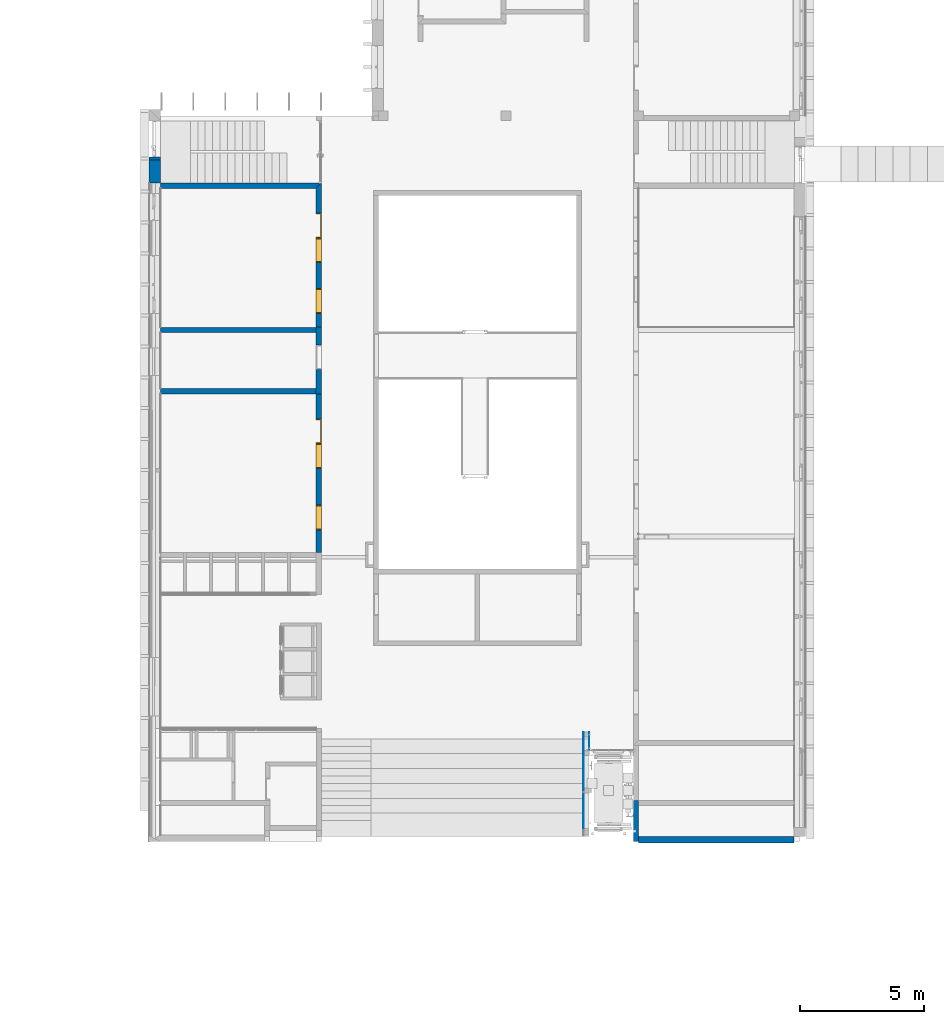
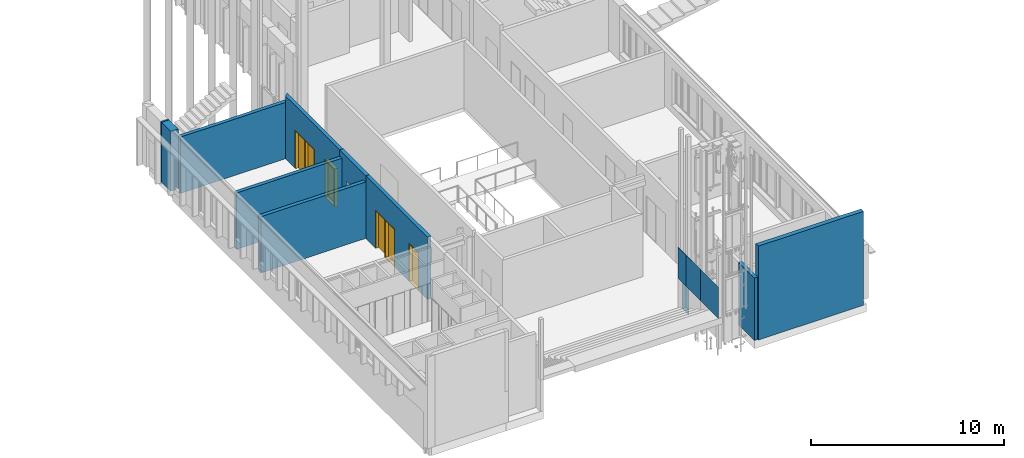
# One storey, part 12 of 89: 14 walls, 4 windows, 2 doors, 7 openings.
"""IFC2X3 building model written with IfcOpenShell, lengths in millimetres."""

from ifc_helpers import new_model, entity, si_unit, converted_unit, derived_unit, money_unit, direction, frame, origin_with_axes, origin_2d_with_axis, place, context, subcontext, project, spatial, polyline, rectangle, outline, extrude, open_shell, faceted_brep, surface_model, source, transform, mapped, material, layer, layer_set, layer_usage, type_object, element, fill, save


model = new_model("IFC2X3")

# Units and contexts
model_context = context("Model", 3, precision=0.01, world=origin_with_axes(), true_north=direction((0.0, 1.0)))
body_context = subcontext(model_context, "Body", "Model", "MODEL_VIEW")
ifc_project = project(units=[si_unit("LENGTHUNIT", "METRE", prefix="MILLI"), si_unit("AREAUNIT", "SQUARE_METRE"), si_unit("VOLUMEUNIT", "CUBIC_METRE"), converted_unit("PLANEANGLEUNIT", "DEGREE", entity("IfcPlaneAngleMeasure", 0.0174532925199), si_unit("PLANEANGLEUNIT", "RADIAN"), dimensions=[0, 0, 0, 0, 0, 0, 0]), si_unit("SOLIDANGLEUNIT", "STERADIAN"), money_unit("EUR"), converted_unit("TIMEUNIT", "Year", entity("IfcTimeMeasure", 31556926.0), si_unit("TIMEUNIT", "SECOND"), dimensions=[0, 0, 1, 0, 0, 0, 0]), si_unit("MASSUNIT", "GRAM", prefix="KILO"), si_unit("THERMODYNAMICTEMPERATUREUNIT", "DEGREE_CELSIUS"), si_unit("LUMINOUSINTENSITYUNIT", "LUMEN"), si_unit("ENERGYUNIT", "JOULE", prefix="MEGA"), derived_unit("THERMALCONDUCTANCEUNIT", [(si_unit("POWERUNIT", "WATT"), 1), (si_unit("LENGTHUNIT", "METRE"), -1), (si_unit("THERMODYNAMICTEMPERATUREUNIT", "KELVIN"), -1)]), derived_unit("SPECIFICHEATCAPACITYUNIT", [(si_unit("ENERGYUNIT", "JOULE"), 1), (si_unit("MASSUNIT", "GRAM", prefix="KILO"), -1), (si_unit("THERMODYNAMICTEMPERATUREUNIT", "KELVIN"), -1)]), derived_unit("MASSDENSITYUNIT", [(si_unit("MASSUNIT", "GRAM", prefix="KILO"), 1), (si_unit("VOLUMEUNIT", "CUBIC_METRE"), -1)])], contexts=[model_context])

# Site, building, storey
site_placement = place(None, origin_with_axes())
site = spatial("IfcSite", under=ifc_project, at=site_placement, Name="Puškini 31, Narva", CompositionType="ELEMENT")
building_placement = place(site_placement, origin_with_axes())
building = spatial("IfcBuilding", under=site, at=building_placement, Name="Narva Riigigümnaasium", CompositionType="ELEMENT")
storey_placement = place(building_placement, frame((0.0, 0.0, -3300.0), z_axis=(0.0, 0.0, 1.0), x_axis=(1.0, 0.0, 0.0)))
storey = spatial("IfcBuildingStorey", under=building, at=storey_placement, Name="1.korrus -3.3", CompositionType="ELEMENT", Elevation=-3300.0)

# Walls
ifc_material_1 = material(Name="Betoon element")
ifc_layer_1 = layer(ifc_material_1, 200.0, ventilated="UNKNOWN")
ifc_layer_set_1 = layer_set([ifc_layer_1], Name="G-SS-01")
ifc_layer_usage_1 = layer_usage(ifc_layer_set_1, "AXIS2", "POSITIVE", 0.0)
wall_type_1 = type_object("IfcWallType", Name="G-SS-01 200", PredefinedType="NOTDEFINED")
wall_1_placement = place(storey_placement, frame((47499.9999928, 196350.0, 0.0), z_axis=(0.0, 0.0, 1.0), x_axis=(0.0, -1.0, 0.0)))
element("IfcWallStandardCase", 1, at=wall_1_placement, inside=storey, type_object=wall_type_1, material=ifc_layer_usage_1, Name="Sisesein", context=body_context, shape_type="SweptSolid", body=[
    extrude(outline(polyline([(0.0, 0.0), (1650.00000013, 0.0), (1650.00000013, 200.0), (0.0, 200.0), (0.0, 0.0)])), origin_with_axes(), (0.0, 0.0, 1.0), 3960.0),
])
ifc_material_2 = material(Name="fassaadiplaat")
ifc_layer_2 = layer(ifc_material_2, 8.0, ventilated="UNKNOWN")
ifc_material_3 = material(Name="Salto-roovitus")
ifc_layer_3 = layer(ifc_material_3, 50.0, ventilated="UNKNOWN")
ifc_material_4 = material(Name="Salto-PIR soojustus")
ifc_layer_4 = layer(ifc_material_4, 50.0, ventilated="UNKNOWN")
ifc_layer_5 = layer(ifc_material_4, 150.0, ventilated="UNKNOWN")
ifc_layer_set_2 = layer_set([ifc_layer_2, ifc_layer_3, ifc_layer_4, ifc_layer_5, ifc_layer_1], Name="G-VS-01-01")
ifc_layer_usage_2 = layer_usage(ifc_layer_set_2, "AXIS2", "NEGATIVE", 458.0)
wall_type_2 = type_object("IfcWallType", Name="G-VS-01-01 458", PredefinedType="NOTDEFINED")
wall_2_placement = place(storey_placement, frame((28400.0401775, 221279.999999, 169.490609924), z_axis=(0.0, 0.0, 1.0), x_axis=(0.0, 1.0, 0.0)))
element("IfcWallStandardCase", 2, at=wall_2_placement, inside=storey, type_object=wall_type_2, material=ifc_layer_usage_2, Name="Välissein", context=body_context, shape_type="SweptSolid", body=[
    extrude(outline(polyline([(0.0, 0.0), (938.741711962, 0.0), (938.741711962, 458.0), (0.0, 458.0), (0.0, 0.0)])), origin_with_axes(), (0.0, 0.0, 1.0), 3790.50939008),
])
wall_3_placement = place(storey_placement, frame((28400.0401775, 222218.741711, 149.999812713), z_axis=(0.0, 0.0, 1.0), x_axis=(0.0, 1.0, 0.0)))
element("IfcWallStandardCase", 3, at=wall_3_placement, inside=storey, type_object=wall_type_2, material=ifc_layer_usage_2, Name="Välissein", context=body_context, shape_type="SweptSolid", body=[
    extrude(outline(polyline([(0.0, 0.0), (110.01372737, 0.0), (110.01372737, 458.0), (0.0, 458.0), (0.0, 0.0)])), origin_with_axes(), (0.0, 0.0, 1.0), 3810.00018729),
])
ifc_material_5 = material(Name="Klaas")
ifc_layer_6 = layer(ifc_material_5, 12.0, ventilated="UNKNOWN")
ifc_layer_set_3 = layer_set([ifc_layer_6], Name="Klaas 12")
ifc_layer_usage_3 = layer_usage(ifc_layer_set_3, "AXIS2", "POSITIVE", -12.0)
wall_type_3 = type_object("IfcWallType", Name="Klaas 12", PredefinedType="NOTDEFINED")
wall_4_placement = place(storey_placement, frame((45724.0, 199106.971327, 0.0), z_axis=(0.0, 0.0, 1.0), x_axis=(0.0, -1.0, 0.0)))
element("IfcWallStandardCase", 4, at=wall_4_placement, inside=storey, type_object=wall_type_3, material=ifc_layer_usage_3, Name="Sisesein", context=body_context, shape_type="SweptSolid", body=[
    extrude(outline(polyline([(0.0, -12.0), (718.0, -12.0), (718.0, 0.0), (0.0, 0.0), (0.0, -12.0)])), origin_with_axes(), (0.0, 0.0, 1.0), 2949.0),
])
wall_5_placement = place(storey_placement, frame((45488.0, 198258.0, 1982.0), z_axis=(0.0, 0.0, 1.0), x_axis=(0.0, -1.0, 0.0)))
element("IfcWallStandardCase", 5, at=wall_5_placement, inside=storey, type_object=wall_type_3, material=ifc_layer_usage_3, Name="Sisesein", context=body_context, shape_type="SweptSolid", body=[
    extrude(outline(polyline([(0.0, -12.0), (1501.0, -12.0), (1501.0, 0.0), (0.0, 0.0), (0.0, -12.0)])), origin_with_axes(), (0.0, 0.0, 1.0), 1976.0),
])
wall_6_placement = place(storey_placement, frame((45488.0, 196753.0, 1982.0), z_axis=(0.0, 0.0, 1.0), x_axis=(0.0, -1.0, 0.0)))
element("IfcWallStandardCase", 6, at=wall_6_placement, inside=storey, type_object=wall_type_3, material=ifc_layer_usage_3, Name="Sisesein", context=body_context, shape_type="SweptSolid", body=[
    extrude(outline(polyline([(0.0, -12.0), (1827.0, -12.0), (1827.0, 0.0), (0.0, 0.0), (0.0, -12.0)])), origin_with_axes(), (0.0, 0.0, 1.0), 1976.0),
])
wall_7_placement = place(storey_placement, frame((45488.0, 199106.971327, 1982.0), z_axis=(0.0, 0.0, 1.0), x_axis=(0.0, -1.0, 0.0)))
element("IfcWallStandardCase", 7, at=wall_7_placement, inside=storey, type_object=wall_type_3, material=ifc_layer_usage_3, Name="Sisesein", context=body_context, shape_type="SweptSolid", body=[
    extrude(outline(polyline([(0.0, -12.0), (845.0, -12.0), (845.0, 0.0), (0.0, 0.0), (0.0, -12.0)])), origin_with_axes(), (0.0, 0.0, 1.0), 1976.0),
])

# Wall, openings, windows, door
ifc_material_6 = material(Name="siseviimistlus-seinad")
ifc_layer_7 = layer(ifc_material_6, 10.0, ventilated="UNKNOWN")
ifc_layer_set_4 = layer_set([ifc_layer_1, ifc_layer_7], Name="G-SS-01-02")
ifc_layer_usage_4 = layer_usage(ifc_layer_set_4, "AXIS2", "NEGATIVE", 0.0)
wall_type_4 = type_object("IfcWallType", Name="G-SS-01-02 210", PredefinedType="NOTDEFINED")
wall_8_placement = place(storey_placement, frame((34899.9999996, 221279.999999, 0.0), z_axis=(0.0, 0.0, 1.0), x_axis=(0.0, -1.0, 0.0)))
wall_8 = element("IfcWallStandardCase", 8, at=wall_8_placement, inside=storey, type_object=wall_type_4, material=ifc_layer_usage_4, Name="Sisesein", context=body_context, shape_type="SweptSolid", body=[
    extrude(outline(polyline([(210.0, -210.0), (5819.99999894, -210.0), (5819.99999894, 0.0), (0.0, 0.0), (210.0, -210.0)])), origin_with_axes(), (0.0, 0.0, 1.0), 3960.0),
])
opening_1_placement = place(wall_8_placement, frame((2710.00000002, 0.0, 0.0), z_axis=(0.0, 0.0, 1.0), x_axis=(1.0, 0.0, 0.0)))
opening_1 = element("IfcOpeningElement", 9, at=opening_1_placement, cuts=wall_8, Name="G-SA-1", context=body_context, shape_type="SweptSolid", body=[
    extrude(rectangle(XDim=1000.0, YDim=2400.0, at=origin_2d_with_axis()), frame((0.0, -210.0, 1200.0), z_axis=(0.0, 1.0, 0.0), x_axis=(1.0, 0.0, 0.0)), (0.0, 0.0, 1.0), 630.0),
])
opening_2_placement = place(wall_8_placement, frame((4765.22049514, 0.0, 0.0), z_axis=(0.0, 0.0, 1.0), x_axis=(1.0, 0.0, 0.0)))
opening_2 = element("IfcOpeningElement", 10, at=opening_2_placement, cuts=wall_8, Name="G-SA-1", context=body_context, shape_type="SweptSolid", body=[
    extrude(rectangle(XDim=1000.0, YDim=2400.0, at=origin_2d_with_axis()), frame((0.0, -210.0, 1200.0), z_axis=(0.0, -1.0, 0.0), x_axis=(-1.0, 0.0, 0.0)), (0.0, 0.0, -1.0), 630.0),
])
opening_3_placement = place(wall_8_placement, frame((1710.00000002, 0.0, 0.0), z_axis=(0.0, 0.0, 1.0), x_axis=(1.0, 0.0, 0.0)))
opening_3 = element("IfcOpeningElement", 11, at=opening_3_placement, cuts=wall_8, Name="G-SU-031", context=body_context, shape_type="SweptSolid", body=[
    extrude(rectangle(XDim=1000.0, YDim=2400.0, at=origin_2d_with_axis()), frame((0.0, -210.0, 1200.0), z_axis=(0.0, -1.0, 0.0), x_axis=(-1.0, 0.0, 0.0)), (0.0, 0.0, -1.0), 630.0),
])
window_style = type_object("IfcWindowStyle", Name="Window 23", ConstructionType="NOTDEFINED", OperationType="SINGLE_PANEL", ParameterTakesPrecedence=False, Sizeable=False)
shared_shape_1 = source(origin_with_axes(), body_context, "Body", "SurfaceModel", [
    faceted_brep([(-460.0, -210.0, 2360.0), (-460.0, 0.0, 2360.0), (-500.0, 0.0, 2360.0), (-500.0, -210.0, 2360.0), (-460.0, -210.0, 40.0), (-460.0, 0.0, 40.0), (-500.0, 0.0, 40.0), (-500.0, -210.0, 40.0)], [[[0, 1, 2, 3]], [[4, 5, 1, 0]], [[1, 5, 6, 2]], [[3, 2, 6, 7]], [[0, 3, 7, 4]], [[7, 6, 5, 4]]]),
    faceted_brep([(460.0, -210.0, 40.0), (460.0, 0.0, 40.0), (500.0, 0.0, 40.0), (500.0, -210.0, 40.0), (460.0, -210.0, 2360.0), (460.0, 0.0, 2360.0), (500.0, 0.0, 2360.0), (500.0, -210.0, 2360.0)], [[[0, 1, 2, 3]], [[4, 5, 1, 0]], [[1, 5, 6, 2]], [[3, 2, 6, 7]], [[0, 3, 7, 4]], [[7, 6, 5, 4]]]),
    faceted_brep([(-460.0, -210.0, 40.0), (-460.0, 0.0, 40.0), (-500.0, 0.0, 40.0), (-500.0, -210.0, 40.0), (460.0, -210.0, 40.0), (460.0, 0.0, 40.0), (500.0, 0.0, 40.0), (500.0, 0.0, 0.0), (-500.0, 0.0, 0.0), (-500.0, -210.0, 0.0), (500.0, -210.0, 0.0), (500.0, -210.0, 40.0)], [[[0, 1, 2, 3]], [[4, 5, 1, 0]], [[1, 5, 6, 7, 8, 2]], [[3, 2, 8, 9]], [[0, 3, 9, 10, 11, 4]], [[11, 6, 5, 4]], [[10, 7, 6, 11]], [[9, 8, 7, 10]]]),
    faceted_brep([(460.0, -210.0, 2360.0), (460.0, 0.0, 2360.0), (500.0, 0.0, 2360.0), (500.0, -210.0, 2360.0), (-460.0, -210.0, 2360.0), (-460.0, 0.0, 2360.0), (-500.0, 0.0, 2360.0), (-500.0, 0.0, 2400.0), (500.0, 0.0, 2400.0), (500.0, -210.0, 2400.0), (-500.0, -210.0, 2400.0), (-500.0, -210.0, 2360.0)], [[[0, 1, 2, 3]], [[4, 5, 1, 0]], [[1, 5, 6, 7, 8, 2]], [[3, 2, 8, 9]], [[0, 3, 9, 10, 11, 4]], [[11, 6, 5, 4]], [[10, 7, 6, 11]], [[9, 8, 7, 10]]]),
    surface_model("IfcShellBasedSurfaceModel", [(-460.0, -35.0, 40.0), (460.0, -35.0, 40.0), (460.0, -35.0, 2360.0), (-460.0, -35.0, 2360.0)], [open_shell([[[0, 1, 2, 3]]])]),
    surface_model("IfcShellBasedSurfaceModel", [(-460.0, -15.0, 40.0), (-460.0, -15.0, 2360.0), (460.0, -15.0, 2360.0), (460.0, -15.0, 40.0)], [open_shell([[[0, 1, 2, 3]]])]),
])
window_1_placement = place(opening_1_placement, frame((-500.0, 0.0, 0.0), z_axis=(0.0, 0.0, 1.0), x_axis=(1.0, 0.0, 0.0)))
window_1 = element("IfcWindow", 12, at=window_1_placement, inside=storey, type_object=window_style, Name="G-SA-1", ObjectType="WINDOW", OverallHeight=2400.0, OverallWidth=1000.0, context=body_context, shape_type="MappedRepresentation", body=[
    mapped(shared_shape_1, transform((500.0, 0.0, 0.0))),
])
fill(opening_1, window_1)
shared_shape_2 = source(origin_with_axes(), body_context, "Body", "SurfaceModel", [
    faceted_brep([(460.0, -210.0, 2360.0), (500.0, -210.0, 2360.0), (500.0, 0.0, 2360.0), (460.0, 0.0, 2360.0), (460.0, -210.0, 40.0), (500.0, -210.0, 40.0), (500.0, 0.0, 40.0), (460.0, 0.0, 40.0)], [[[0, 1, 2, 3]], [[0, 4, 5, 1]], [[1, 5, 6, 2]], [[3, 2, 6, 7]], [[4, 0, 3, 7]], [[5, 4, 7, 6]]]),
    faceted_brep([(-460.0, -210.0, 40.0), (-500.0, -210.0, 40.0), (-500.0, 0.0, 40.0), (-460.0, 0.0, 40.0), (-460.0, -210.0, 2360.0), (-500.0, -210.0, 2360.0), (-500.0, 0.0, 2360.0), (-460.0, 0.0, 2360.0)], [[[0, 1, 2, 3]], [[0, 4, 5, 1]], [[1, 5, 6, 2]], [[3, 2, 6, 7]], [[4, 0, 3, 7]], [[5, 4, 7, 6]]]),
    faceted_brep([(460.0, -210.0, 40.0), (500.0, -210.0, 40.0), (500.0, 0.0, 40.0), (460.0, 0.0, 40.0), (-460.0, -210.0, 40.0), (-500.0, -210.0, 40.0), (-500.0, -210.0, 0.0), (500.0, -210.0, 0.0), (500.0, 0.0, 0.0), (-500.0, 0.0, 0.0), (-500.0, 0.0, 40.0), (-460.0, 0.0, 40.0)], [[[0, 1, 2, 3]], [[0, 4, 5, 6, 7, 1]], [[1, 7, 8, 2]], [[3, 2, 8, 9, 10, 11]], [[4, 0, 3, 11]], [[5, 4, 11, 10]], [[6, 5, 10, 9]], [[7, 6, 9, 8]]]),
    faceted_brep([(-460.0, -210.0, 2360.0), (-500.0, -210.0, 2360.0), (-500.0, 0.0, 2360.0), (-460.0, 0.0, 2360.0), (460.0, -210.0, 2360.0), (500.0, -210.0, 2360.0), (500.0, -210.0, 2400.0), (-500.0, -210.0, 2400.0), (-500.0, 0.0, 2400.0), (500.0, 0.0, 2400.0), (500.0, 0.0, 2360.0), (460.0, 0.0, 2360.0)], [[[0, 1, 2, 3]], [[0, 4, 5, 6, 7, 1]], [[1, 7, 8, 2]], [[3, 2, 8, 9, 10, 11]], [[4, 0, 3, 11]], [[5, 4, 11, 10]], [[6, 5, 10, 9]], [[7, 6, 9, 8]]]),
    surface_model("IfcShellBasedSurfaceModel", [(460.0, -35.0, 40.0), (460.0, -35.0, 2360.0), (-460.0, -35.0, 2360.0), (-460.0, -35.0, 40.0)], [open_shell([[[0, 1, 2, 3]]])]),
    surface_model("IfcShellBasedSurfaceModel", [(460.0, -15.0, 40.0), (-460.0, -15.0, 40.0), (-460.0, -15.0, 2360.0), (460.0, -15.0, 2360.0)], [open_shell([[[0, 1, 2, 3]]])]),
])
window_2_placement = place(opening_2_placement, frame((-500.0, 0.0, 0.0), z_axis=(0.0, 0.0, 1.0), x_axis=(1.0, 0.0, 0.0)))
window_2 = element("IfcWindow", 13, at=window_2_placement, inside=storey, type_object=window_style, Name="G-SA-1", ObjectType="WINDOW", OverallHeight=2400.0, OverallWidth=1000.0, context=body_context, shape_type="MappedRepresentation", body=[
    mapped(shared_shape_2, transform((500.0, 0.0, 0.0))),
])
fill(opening_2, window_2)
door_style = type_object("IfcDoorStyle", Name="Door 23", ConstructionType="NOTDEFINED", OperationType="SINGLE_SWING_LEFT", ParameterTakesPrecedence=False, Sizeable=False)
shared_shape_3 = source(origin_with_axes(), body_context, "Body", "Brep", [
    faceted_brep([(460.0, -40.0, 0.0), (460.0, -210.0, 0.0), (460.0, -210.0, 2360.0), (460.0, -40.0, 2360.0), (472.0, -40.0, 0.0), (472.0, 0.0, 0.0), (500.0, 0.0, 0.0), (500.0, -210.0, 0.0), (500.0, -210.0, 2360.0), (472.0, -40.0, 2360.0), (500.0, 0.0, 2360.0), (472.0, 0.0, 2360.0)], [[[0, 1, 2, 3]], [[4, 5, 6, 7, 1, 0]], [[1, 7, 8, 2]], [[9, 3, 2, 8, 10, 11]], [[9, 4, 0, 3]], [[11, 5, 4, 9]], [[11, 10, 6, 5]], [[6, 10, 8, 7]]]),
    faceted_brep([(-472.0, -40.0, 2360.0), (-472.0, 0.0, 2360.0), (-500.0, 0.0, 2360.0), (-500.0, -210.0, 2360.0), (-460.0, -210.0, 2360.0), (-460.0, -40.0, 2360.0), (-472.0, -40.0, 0.0), (-472.0, 0.0, 0.0), (-500.0, 0.0, 0.0), (-500.0, -210.0, 0.0), (-460.0, -210.0, 0.0), (-460.0, -40.0, 0.0)], [[[0, 1, 2, 3, 4, 5]], [[0, 6, 7, 1]], [[7, 8, 2, 1]], [[2, 8, 9, 3]], [[3, 9, 10, 4]], [[5, 4, 10, 11]], [[5, 11, 6, 0]], [[6, 11, 10, 9, 8, 7]]]),
    faceted_brep([(472.0, 0.0, 2372.0), (-472.0, 0.0, 2372.0), (-472.0, 0.0, 2360.0), (-500.0, 0.0, 2360.0), (-500.0, 0.0, 2400.0), (500.0, 0.0, 2400.0), (500.0, 0.0, 2360.0), (472.0, 0.0, 2360.0), (472.0, -40.0, 2372.0), (-472.0, -40.0, 2372.0), (-472.0, -40.0, 2360.0), (-460.0, -40.0, 2360.0), (-460.0, -210.0, 2360.0), (-500.0, -210.0, 2360.0), (-500.0, -210.0, 2400.0), (500.0, -210.0, 2400.0), (500.0, -210.0, 2360.0), (472.0, -40.0, 2360.0), (460.0, -210.0, 2360.0), (460.0, -40.0, 2360.0)], [[[0, 1, 2, 3, 4, 5, 6, 7]], [[0, 8, 9, 1]], [[1, 9, 10, 2]], [[10, 11, 12, 13, 3, 2]], [[4, 3, 13, 14]], [[5, 4, 14, 15]], [[6, 5, 15, 16]], [[17, 7, 6, 16, 18, 19]], [[7, 17, 8, 0]], [[10, 9, 8, 17, 19, 11]], [[19, 18, 12, 11]], [[12, 18, 16, 15, 14, 13]]]),
    faceted_brep([(-472.0, 0.0, 0.0), (472.0, 0.0, 0.0), (472.0, -40.0, 0.0), (-472.0, -40.0, 0.0), (-472.0, 0.0, 2372.0), (472.0, 0.0, 2372.0), (472.0, -40.0, 2372.0), (-472.0, -40.0, 2372.0)], [[[0, 1, 2, 3]], [[0, 4, 5, 1]], [[1, 5, 6, 2]], [[3, 2, 6, 7]], [[4, 0, 3, 7]], [[5, 4, 7, 6]]]),
])
door_1_placement = place(opening_3_placement, frame((-500.0, 0.0, 0.0), z_axis=(0.0, 0.0, 1.0), x_axis=(1.0, 0.0, 0.0)))
door_1 = element("IfcDoor", 14, at=door_1_placement, inside=storey, type_object=door_style, Name="G-SU-031", ObjectType="DOOR", OverallHeight=2400.0, OverallWidth=1000.0, context=body_context, shape_type="MappedRepresentation", body=[
    mapped(shared_shape_3, transform((500.0, 0.0, 0.0))),
])
fill(opening_3, door_1)

# Wall, opening
wall_9_placement = place(storey_placement, frame((34899.9999996, 215460.0, 0.0), z_axis=(0.0, 0.0, 1.0), x_axis=(0.0, -1.0, 0.0)))
wall_9 = element("IfcWallStandardCase", 15, at=wall_9_placement, inside=storey, type_object=wall_type_4, material=ifc_layer_usage_4, Name="Sisesein", context=body_context, shape_type="SweptSolid", body=[
    extrude(outline(polyline([(0.0, -210.0), (2699.99898234, -210.0), (2699.99898234, 0.0), (0.0, 0.0), (0.0, -210.0)])), origin_with_axes(), (0.0, 0.0, 1.0), 3960.0),
])
opening_4_placement = place(wall_9_placement, frame((1209.99999464, 0.0, 0.0), z_axis=(0.0, 0.0, 1.0), x_axis=(1.0, 0.0, 0.0)))
element("IfcOpeningElement", 16, at=opening_4_placement, cuts=wall_9, Name="G-SU-030", context=body_context, shape_type="SweptSolid", body=[
    extrude(rectangle(XDim=1000.0, YDim=2400.0, at=origin_2d_with_axis()), frame((0.0, -210.0, 1200.0), z_axis=(0.0, 1.0, 0.0), x_axis=(-1.0, 0.0, 0.0)), (0.0, 0.0, 1.0), 630.0),
])

# Wall, openings, windows, door
wall_10_placement = place(storey_placement, frame((34899.9999996, 212760.001018, 0.0), z_axis=(0.0, 0.0, 1.0), x_axis=(0.0, -1.0, 0.0)))
wall_10 = element("IfcWallStandardCase", 17, at=wall_10_placement, inside=storey, type_object=wall_type_4, material=ifc_layer_usage_4, Name="Sisesein", context=body_context, shape_type="SweptSolid", body=[
    extrude(outline(polyline([(0.0, -210.0), (6400.00130759, -210.0), (6400.00130759, 0.0), (0.0, 0.0), (0.0, -210.0)])), origin_with_axes(), (0.0, 0.0, 1.0), 3960.0),
])
opening_5_placement = place(wall_10_placement, frame((2500.0, 0.0, 0.0), z_axis=(0.0, 0.0, 1.0), x_axis=(1.0, 0.0, 0.0)))
opening_5 = element("IfcOpeningElement", 18, at=opening_5_placement, cuts=wall_10, Name="G-SA-1", context=body_context, shape_type="SweptSolid", body=[
    extrude(rectangle(XDim=1000.0, YDim=2400.0, at=origin_2d_with_axis()), frame((0.0, -210.0, 1200.0), z_axis=(0.0, 1.0, 0.0), x_axis=(1.0, 0.0, 0.0)), (0.0, 0.0, 1.0), 630.0),
])
opening_6_placement = place(wall_10_placement, frame((4982.23612745, 0.0, 0.0), z_axis=(0.0, 0.0, 1.0), x_axis=(1.0, 0.0, 0.0)))
opening_6 = element("IfcOpeningElement", 19, at=opening_6_placement, cuts=wall_10, Name="G-SA-1", context=body_context, shape_type="SweptSolid", body=[
    extrude(rectangle(XDim=1000.0, YDim=2400.0, at=origin_2d_with_axis()), frame((0.0, -210.0, 1200.0), z_axis=(0.0, 1.0, 0.0), x_axis=(1.0, 0.0, 0.0)), (0.0, 0.0, 1.0), 630.0),
])
opening_7_placement = place(wall_10_placement, frame((1500.0, 0.0, 0.0), z_axis=(0.0, 0.0, 1.0), x_axis=(1.0, 0.0, 0.0)))
opening_7 = element("IfcOpeningElement", 20, at=opening_7_placement, cuts=wall_10, Name="G-SU-029", context=body_context, shape_type="SweptSolid", body=[
    extrude(rectangle(XDim=1000.0, YDim=2400.0, at=origin_2d_with_axis()), frame((0.0, -210.0, 1200.0), z_axis=(0.0, -1.0, 0.0), x_axis=(-1.0, 0.0, 0.0)), (0.0, 0.0, -1.0), 630.0),
])
window_3_placement = place(opening_5_placement, frame((-500.0, 0.0, 0.0), z_axis=(0.0, 0.0, 1.0), x_axis=(1.0, 0.0, 0.0)))
window_3 = element("IfcWindow", 21, at=window_3_placement, inside=storey, type_object=window_style, Name="G-SA-1", ObjectType="WINDOW", OverallHeight=2400.0, OverallWidth=1000.0, context=body_context, shape_type="MappedRepresentation", body=[
    mapped(shared_shape_1, transform((500.0, 0.0, 0.0))),
])
fill(opening_5, window_3)
window_4_placement = place(opening_6_placement, frame((-500.0, 0.0, 0.0), z_axis=(0.0, 0.0, 1.0), x_axis=(1.0, 0.0, 0.0)))
window_4 = element("IfcWindow", 22, at=window_4_placement, inside=storey, type_object=window_style, Name="G-SA-1", ObjectType="WINDOW", OverallHeight=2400.0, OverallWidth=1000.0, context=body_context, shape_type="MappedRepresentation", body=[
    mapped(shared_shape_1, transform((500.0, 0.0, 0.0))),
])
fill(opening_6, window_4)
door_2_placement = place(opening_7_placement, frame((-500.0, 0.0, 0.0), z_axis=(0.0, 0.0, 1.0), x_axis=(1.0, 0.0, 0.0)))
door_2 = element("IfcDoor", 23, at=door_2_placement, inside=storey, type_object=door_style, Name="G-SU-029", ObjectType="DOOR", OverallHeight=2400.0, OverallWidth=1000.0, context=body_context, shape_type="MappedRepresentation", body=[
    mapped(shared_shape_3, transform((500.0, 0.0, 0.0))),
])
fill(opening_7, door_2)

# Walls
wall_11_placement = place(storey_placement, frame((28400.0427641, 221279.999999, 0.0), z_axis=(0.0, 0.0, 1.0), x_axis=(1.0, 0.0, 0.0)))
element("IfcWallStandardCase", 24, at=wall_11_placement, inside=storey, type_object=wall_type_4, material=ifc_layer_usage_4, Name="Sisesein", context=body_context, shape_type="SweptSolid", body=[
    extrude(outline(polyline([(9.99741344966, -210.0), (6289.95723559, -210.0), (6499.95723559, 0.0), (-0.00258655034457, 0.0), (9.99741344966, -210.0)])), origin_with_axes(), (0.0, 0.0, 1.0), 3565.0),
])
wall_12_placement = place(storey_placement, frame((28399.5036038, 215450.0, 0.0), z_axis=(0.0, 0.0, 1.0), x_axis=(1.0, 0.0, 0.0)))
element("IfcWallStandardCase", 25, at=wall_12_placement, inside=storey, type_object=wall_type_4, material=ifc_layer_usage_4, Name="Sisesein", context=body_context, shape_type="SweptSolid", body=[
    extrude(outline(polyline([(0.0, -210.0), (6290.49639588, -210.0), (6290.49639588, 0.0), (0.0, 0.0), (0.0, -210.0)])), origin_with_axes(), (0.0, 0.0, 1.0), 3565.0),
])
ifc_layer_8 = layer(ifc_material_1, 250.0, ventilated="UNKNOWN")
ifc_material_7 = material(Name="Salto-siseviimistlus-seinad")
ifc_layer_9 = layer(ifc_material_7, 10.0, ventilated="UNKNOWN")
ifc_layer_set_5 = layer_set([ifc_layer_8, ifc_layer_9], Name="G-SS-03-01")
ifc_layer_usage_5 = layer_usage(ifc_layer_set_5, "AXIS2", "NEGATIVE", 0.0)
wall_type_5 = type_object("IfcWallType", Name="G-SS-03-01 260", PredefinedType="NOTDEFINED")
wall_13_placement = place(storey_placement, frame((47499.9999802, 194900.0, 0.0), z_axis=(0.0, 0.0, 1.0), x_axis=(1.0, 0.0, 0.0)))
element("IfcWallStandardCase", 26, at=wall_13_placement, inside=storey, type_object=wall_type_5, material=ifc_layer_usage_5, Name="Sisesein", context=body_context, shape_type="SweptSolid", body=[
    extrude(outline(polyline([(200.000012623, -260.0), (6490.00002087, -260.0), (6490.00002087, 0.0), (200.000012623, 0.0), (200.000012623, -260.0)])), origin_with_axes(), (0.0, 0.0, 1.0), 5940.0),
])
ifc_layer_set_6 = layer_set([ifc_layer_7, ifc_layer_1, ifc_layer_7], Name="G-SS-01-01")
ifc_layer_usage_6 = layer_usage(ifc_layer_set_6, "AXIS2", "NEGATIVE", 10.0)
wall_type_6 = type_object("IfcWallType", Name="G-SS-01-01 220", PredefinedType="NOTDEFINED")
wall_14_placement = place(storey_placement, frame((28400.0401775, 212970.001018, 0.0), z_axis=(0.0, 0.0, 1.0), x_axis=(1.0, 0.0, 0.0)))
element("IfcWallStandardCase", 27, at=wall_14_placement, inside=storey, type_object=wall_type_6, material=ifc_layer_usage_6, Name="Sisesein", context=body_context, shape_type="SweptSolid", body=[
    extrude(outline(polyline([(10.0, -210.0), (6289.95982214, -210.0), (6289.95982214, 9.99999999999), (10.0, 9.99999999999), (10.0, -210.0)])), origin_with_axes(), (0.0, 0.0, 1.0), 3565.0),
])

save(model, "model.ifc")
